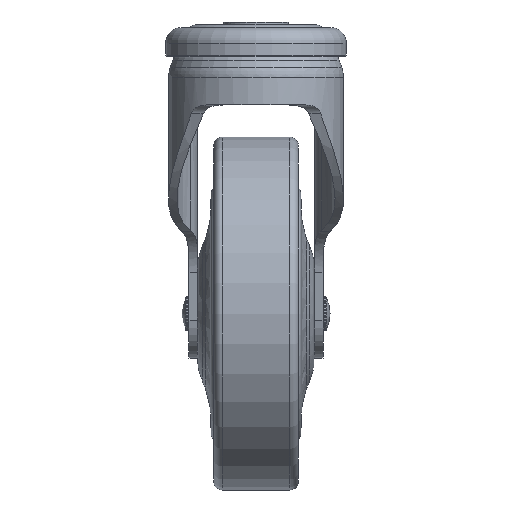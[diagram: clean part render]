
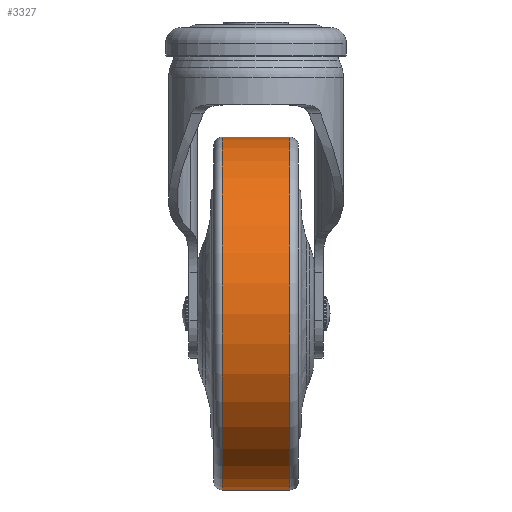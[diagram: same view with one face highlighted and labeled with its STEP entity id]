
A CAD part, left-side view. The second image highlights one B-rep face of the part: STEP entity #3327.
In plain terms, the highlighted cylindrical face has radius 62.499 mm (diameter 124.998 mm), a full revolution.
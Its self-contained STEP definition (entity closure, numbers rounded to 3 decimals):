
#3285=CARTESIAN_POINT('',(141.051,301.064,-157.599));
#3286=VERTEX_POINT('',#3285);
#3287=CARTESIAN_POINT('',(141.051,301.064,-95.1));
#3288=DIRECTION('',(0.0,-1.0,0.0));
#3289=DIRECTION('',(0.0,0.0,1.0));
#3290=AXIS2_PLACEMENT_3D('',#3287,#3288,#3289);
#3291=CIRCLE('',#3290,62.499);
#3292=EDGE_CURVE('',#3286,#3286,#3291,.T.);
#3308=CARTESIAN_POINT('',(141.051,313.064,-95.1));
#3309=DIRECTION('',(0.0,-1.0,0.0));
#3310=DIRECTION('',(0.0,0.0,1.0));
#3311=AXIS2_PLACEMENT_3D('',#3308,#3309,#3310);
#3312=CYLINDRICAL_SURFACE('',#3311,62.499);
#3313=CARTESIAN_POINT('',(141.051,325.064,-157.599));
#3314=VERTEX_POINT('',#3313);
#3315=CARTESIAN_POINT('',(141.051,325.064,-95.1));
#3316=DIRECTION('',(0.0,-1.0,0.0));
#3317=DIRECTION('',(0.0,0.0,1.0));
#3318=AXIS2_PLACEMENT_3D('',#3315,#3316,#3317);
#3319=CIRCLE('',#3318,62.499);
#3320=EDGE_CURVE('',#3314,#3314,#3319,.T.);
#3321=ORIENTED_EDGE('',*,*,#3320,.T.);
#3322=EDGE_LOOP('',(#3321));
#3323=FACE_OUTER_BOUND('',#3322,.T.);
#3324=ORIENTED_EDGE('',*,*,#3292,.F.);
#3325=EDGE_LOOP('',(#3324));
#3326=FACE_BOUND('',#3325,.T.);
#3327=ADVANCED_FACE('',(#3323,#3326),#3312,.T.);
